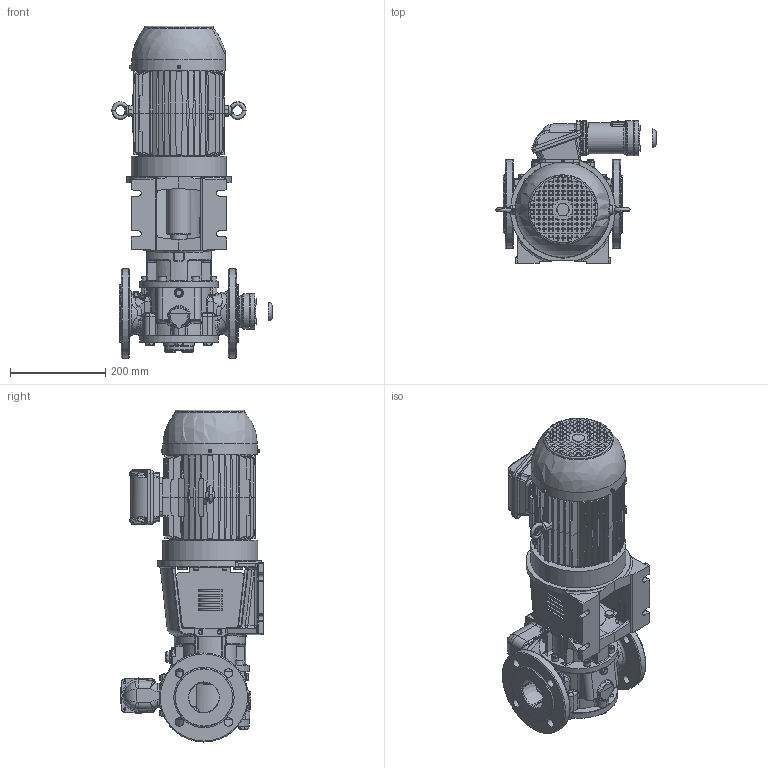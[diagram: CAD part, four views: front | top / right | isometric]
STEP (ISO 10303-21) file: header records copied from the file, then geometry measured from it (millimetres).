
FILE_DESCRIPTION(/* description */ (''),/* implementation_level */ '2;1');
FILE_NAME(/* name */ 'C:\V\JPP\Designs\GEAR PUMPS\PRODUCT ENGINEERING\EUROPE\TG BLOC\TG BLOC_23-65_R5_O_RV1-_100L-STEP.stp',/* time_stamp */ '2021-03-18T15:18:57+01:00',/* author */ ('A77THR'),/* organization */ (''),/* preprocessor_version */ 'ST-DEVELOPER v18.1',/* originating_system */ 'Autodesk Inventor 2020',/* authorisation */ '');
FILE_SCHEMA (('AUTOMOTIVE_DESIGN { 1 0 10303 214 3 1 1 }'));
Length unit declared in the file: millimetre
Products named in the file (1): TG BLOC_23-65_R5_O_RV1-_100L
Bounding box: 336.99 x 300.19 x 697.1 mm (x, y, z)
Volume: 15899924.9 mm3; surface area: 1125179.9 mm2
Topology: 1 solids, 1 shells, 4653 faces, 11835 edges, 7395 vertices
Faces by surface type: plane 2362, bspline 972, cylinder 704, cone 391, torus 158, sphere 66
Full cylindrical faces by diameter (mm): 3.15 x1, 4.5 x4, 4.917 x4, 5 x4, 5.459 x22, 6 x24, 6.647 x1, 7 x22, 8.376 x5, 8.5 x2, 8.7 x22, 9.188 x4, 10 x12, 10.5 x1, 11.445 x2, 11.5 x4, 12 x4, 15.011 x3, 15.4 x14, 16 x6, 17.9 x3, 18 x11, 19 x3, 21.939 x1, 25.9 x1, 26 x2, 27.6 x1, 28 x1, 29.4 x1, 30 x1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
Entity records: 198408 total; most frequent: CARTESIAN_POINT 89417, ORIENTED_EDGE 23428, DIRECTION 19409, EDGE_CURVE 11714, VERTEX_POINT 7395, AXIS2_PLACEMENT_3D 6887, LINE 5635, VECTOR 5635
